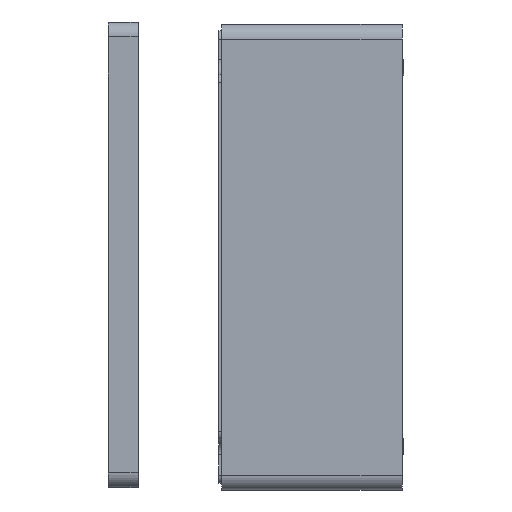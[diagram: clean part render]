
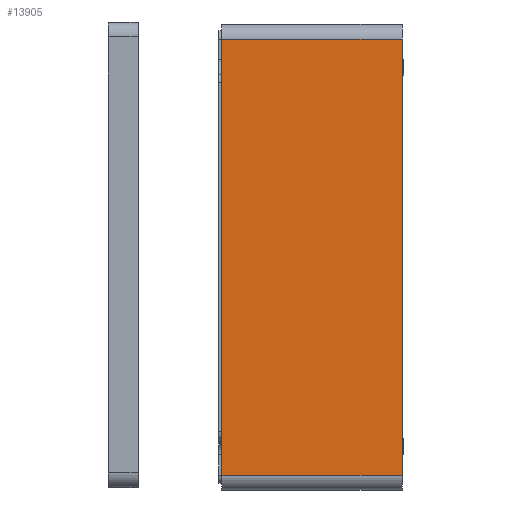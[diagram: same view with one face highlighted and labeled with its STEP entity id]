
A CAD part, left-side view. The second image highlights one B-rep face of the part: STEP entity #13905.
In plain terms, the highlighted planar face has unit normal (-1, 0, 0).
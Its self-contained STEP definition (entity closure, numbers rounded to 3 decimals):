
#1239 = ORIENTED_EDGE ( 'NONE', *, *, #7419, .T. ) ;
#2873 = CARTESIAN_POINT ( 'NONE',  ( -201.5, 121., -146. ) ) ;
#3031 = CARTESIAN_POINT ( 'NONE',  ( -201.5, 121., -156. ) ) ;
#3131 = ORIENTED_EDGE ( 'NONE', *, *, #23408, .T. ) ;
#4395 = ORIENTED_EDGE ( 'NONE', *, *, #7509, .T. ) ;
#4656 = CARTESIAN_POINT ( 'NONE',  ( -201.5, 121., 146. ) ) ;
#4829 = DIRECTION ( 'NONE',  ( 1., 0., 0. ) ) ;
#6048 = AXIS2_PLACEMENT_3D ( 'NONE', #22848, #4829, #15172 ) ;
#6437 = EDGE_LOOP ( 'NONE', ( #3131, #1239, #24873, #4395 ) ) ;
#6460 = DIRECTION ( 'NONE',  ( 0., 0., 1. ) ) ;
#6852 = PLANE ( 'NONE',  #6048 ) ;
#7419 = EDGE_CURVE ( 'NONE', #11041, #20073, #18439, .T. ) ;
#7509 = EDGE_CURVE ( 'NONE', #13580, #15772, #21426, .T. ) ;
#9030 = CARTESIAN_POINT ( 'NONE',  ( -201.5, 121., -146. ) ) ;
#10247 = VECTOR ( 'NONE', #18992, 1000. ) ;
#10968 = LINE ( 'NONE', #3031, #16420 ) ;
#11041 = VERTEX_POINT ( 'NONE', #23987 ) ;
#13580 = VERTEX_POINT ( 'NONE', #9030 ) ;
#13905 = ADVANCED_FACE ( 'NONE', ( #17168 ), #6852, .F. ) ;
#14282 = CARTESIAN_POINT ( 'NONE',  ( -201.5, 121., 146. ) ) ;
#14855 = VECTOR ( 'NONE', #6460, 1000. ) ;
#15172 = DIRECTION ( 'NONE',  ( 0., 0., -1. ) ) ;
#15772 = VERTEX_POINT ( 'NONE', #18034 ) ;
#16420 = VECTOR ( 'NONE', #19175, 1000. ) ;
#16897 = EDGE_CURVE ( 'NONE', #13580, #20073, #10968, .T. ) ;
#17115 = VECTOR ( 'NONE', #17481, 1000. ) ;
#17168 = FACE_OUTER_BOUND ( 'NONE', #6437, .T. ) ;
#17481 = DIRECTION ( 'NONE',  ( 0., -1., 0. ) ) ;
#18034 = CARTESIAN_POINT ( 'NONE',  ( -201.5, 0., -146. ) ) ;
#18439 = LINE ( 'NONE', #14282, #10247 ) ;
#18820 = CARTESIAN_POINT ( 'NONE',  ( -201.5, 0., -156. ) ) ;
#18992 = DIRECTION ( 'NONE',  ( 0., 1., 0. ) ) ;
#19175 = DIRECTION ( 'NONE',  ( 0., 0., 1. ) ) ;
#20073 = VERTEX_POINT ( 'NONE', #4656 ) ;
#21426 = LINE ( 'NONE', #2873, #17115 ) ;
#22848 = CARTESIAN_POINT ( 'NONE',  ( -201.5, 121., -156. ) ) ;
#23408 = EDGE_CURVE ( 'NONE', #15772, #11041, #24874, .T. ) ;
#23987 = CARTESIAN_POINT ( 'NONE',  ( -201.5, 0., 146. ) ) ;
#24873 = ORIENTED_EDGE ( 'NONE', *, *, #16897, .F. ) ;
#24874 = LINE ( 'NONE', #18820, #14855 ) ;
